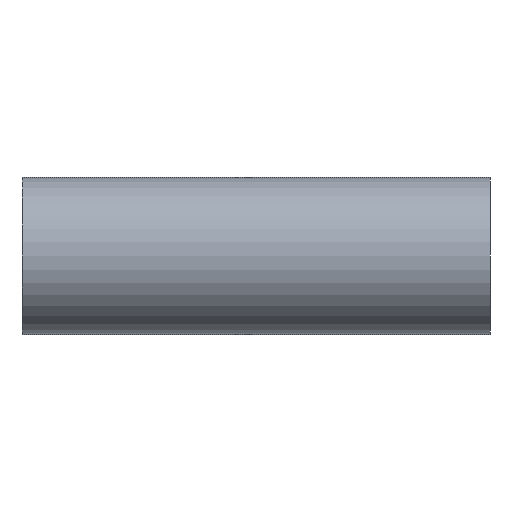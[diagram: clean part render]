
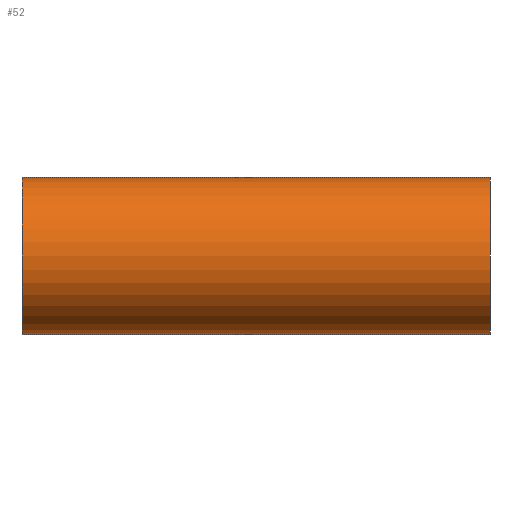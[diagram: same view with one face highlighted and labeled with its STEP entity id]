
A CAD part, front view. The second image highlights one B-rep face of the part: STEP entity #52.
In plain terms, the highlighted cylindrical face has radius 25.4 mm (diameter 50.8 mm), a partial arc.
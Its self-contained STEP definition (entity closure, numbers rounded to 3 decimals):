
#5 = EDGE_CURVE ( 'NONE', #201, #32, #415, .T. ) ;
#15 = CARTESIAN_POINT ( 'NONE',  ( -75.7, 0., 0. ) ) ;
#20 = VERTEX_POINT ( 'NONE', #198 ) ;
#32 = VERTEX_POINT ( 'NONE', #556 ) ;
#44 = AXIS2_PLACEMENT_3D ( 'NONE', #265, #535, #571 ) ;
#52 = ADVANCED_FACE ( 'NONE', ( #513 ), #313, .T. ) ;
#73 = CARTESIAN_POINT ( 'NONE',  ( -75.7, 0., 25.4 ) ) ;
#80 = VECTOR ( 'NONE', #552, 1000. ) ;
#85 = ORIENTED_EDGE ( 'NONE', *, *, #5, .T. ) ;
#99 = DIRECTION ( 'NONE',  ( 0., 0., 1. ) ) ;
#161 = LINE ( 'NONE', #512, #80 ) ;
#167 = DIRECTION ( 'NONE',  ( 1., 0., 0. ) ) ;
#174 = LINE ( 'NONE', #511, #493 ) ;
#198 = CARTESIAN_POINT ( 'NONE',  ( -75.7, 0., -25.4 ) ) ;
#201 = VERTEX_POINT ( 'NONE', #584 ) ;
#239 = DIRECTION ( 'NONE',  ( -1., 0., 0. ) ) ;
#265 = CARTESIAN_POINT ( 'NONE',  ( 147.542, 0., 0. ) ) ;
#273 = EDGE_LOOP ( 'NONE', ( #357, #85, #285, #335 ) ) ;
#277 = CIRCLE ( 'NONE', #449, 25.4 ) ;
#279 = CARTESIAN_POINT ( 'NONE',  ( 75.7, 0., 0. ) ) ;
#285 = ORIENTED_EDGE ( 'NONE', *, *, #563, .T. ) ;
#299 = VERTEX_POINT ( 'NONE', #73 ) ;
#313 = CYLINDRICAL_SURFACE ( 'NONE', #44, 25.4 ) ;
#335 = ORIENTED_EDGE ( 'NONE', *, *, #349, .T. ) ;
#349 = EDGE_CURVE ( 'NONE', #299, #20, #277, .T. ) ;
#357 = ORIENTED_EDGE ( 'NONE', *, *, #419, .F. ) ;
#415 = CIRCLE ( 'NONE', #516, 25.4 ) ;
#419 = EDGE_CURVE ( 'NONE', #201, #20, #174, .T. ) ;
#425 = DIRECTION ( 'NONE',  ( 0., 0., 1. ) ) ;
#431 = DIRECTION ( 'NONE',  ( -1., 0., 0. ) ) ;
#449 = AXIS2_PLACEMENT_3D ( 'NONE', #15, #167, #99 ) ;
#493 = VECTOR ( 'NONE', #431, 1000. ) ;
#511 = CARTESIAN_POINT ( 'NONE',  ( 147.542, 0., -25.4 ) ) ;
#512 = CARTESIAN_POINT ( 'NONE',  ( 147.542, 0., 25.4 ) ) ;
#513 = FACE_OUTER_BOUND ( 'NONE', #273, .T. ) ;
#516 = AXIS2_PLACEMENT_3D ( 'NONE', #279, #239, #425 ) ;
#535 = DIRECTION ( 'NONE',  ( -1., 0., 0. ) ) ;
#552 = DIRECTION ( 'NONE',  ( -1., 0., 0. ) ) ;
#556 = CARTESIAN_POINT ( 'NONE',  ( 75.7, 0., 25.4 ) ) ;
#563 = EDGE_CURVE ( 'NONE', #32, #299, #161, .T. ) ;
#571 = DIRECTION ( 'NONE',  ( 0., 0., 1. ) ) ;
#584 = CARTESIAN_POINT ( 'NONE',  ( 75.7, 0., -25.4 ) ) ;
